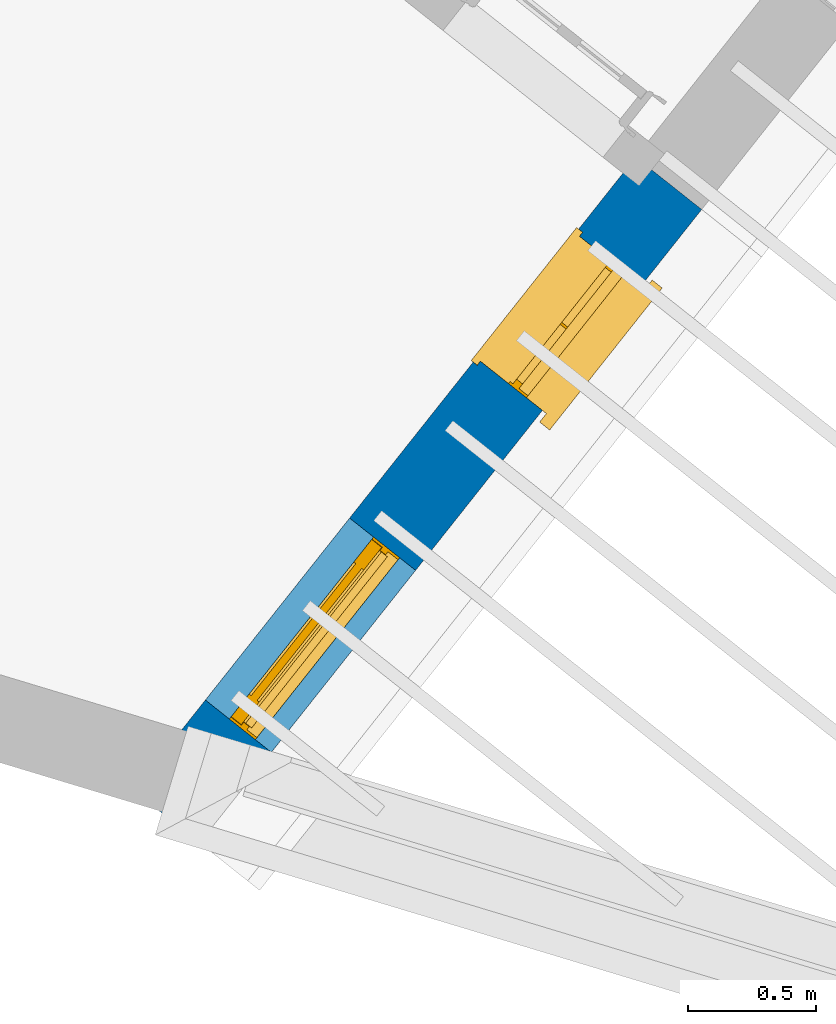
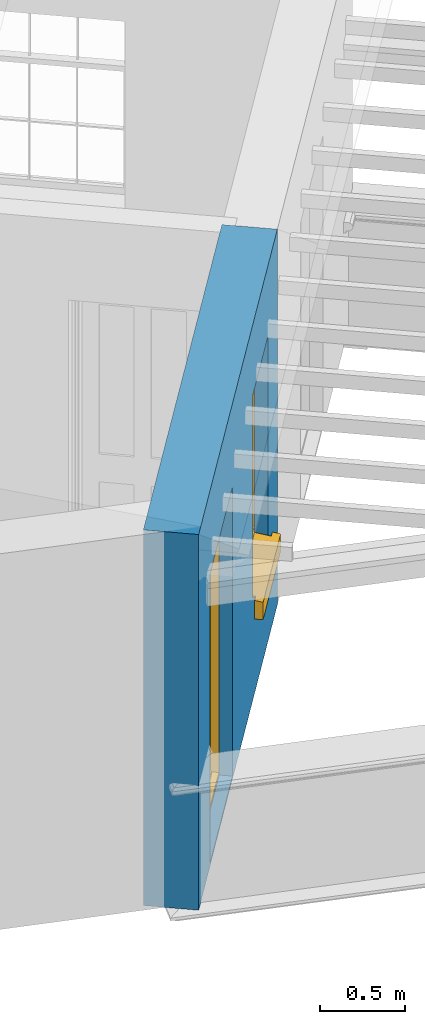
# One storey, part 2 of 5: 1 door, 1 wall, 1 window, 2 openings.
"""IFC4 building model written with IfcOpenShell, lengths in metres."""

from ifc_helpers import new_model, si_unit, frame, origin, origin_with_axes, place, context, subcontext, project, spatial, polyline, outline, extrude, faceted_brep, source, transform, mapped, material, layer, layer_set, layer_usage, type_object, type_shapes, element, fill, save


model = new_model("IFC4")

# Units and contexts
model_context = context("Model", 3, world=origin_with_axes())
body_context = subcontext(model_context, "Body", "Model", "MODEL_VIEW")
ifc_project = project(units=[si_unit("PLANEANGLEUNIT", "RADIAN"), si_unit("MASSUNIT", "GRAM", prefix="KILO"), si_unit("FORCEUNIT", "NEWTON", prefix="KILO"), si_unit("LENGTHUNIT", "METRE"), si_unit("AREAUNIT", "SQUARE_METRE"), si_unit("VOLUMEUNIT", "CUBIC_METRE")], contexts=[model_context, model_context])

# Sites, building, storey
site_1_placement = place(None, origin_with_axes())
site_1 = spatial("IfcSite", under=ifc_project, at=site_1_placement, Name="Tamar")
site_2_placement = place(site_1_placement, origin_with_axes())
site_2 = spatial("IfcSite", under=site_1, at=site_2_placement, Name="Site plot-5", CompositionType="ELEMENT")
building_placement = place(None, origin_with_axes())
building = spatial("IfcBuilding", under=site_2, at=building_placement, Name="Building plot-5", CompositionType="ELEMENT")
storey_placement = place(None, frame((0.0, 0.0, 30.15), z_axis=(0.0, 0.0, 1.0), x_axis=(1.0, 0.0, 0.0)))
storey = spatial("IfcBuildingStorey", under=building, at=storey_placement, Name="plot-5 2", CompositionType="ELEMENT", Elevation=30.15)

# Wall, openings, door, window
ifc_material = material(Name="Masonry")
ifc_layer = layer(ifc_material, 0.33, ventilated=False)
ifc_layer_set = layer_set([ifc_layer], Name="exterior_0.08_0.25")
ifc_layer_usage = layer_usage(ifc_layer_set, "AXIS2", "POSITIVE", -0.25)
wall_type = type_object("IfcWallType", Name="exterior_0.08_0.25", PredefinedType="SOLIDWALL", material=ifc_layer_set)
wall_placement = place(storey_placement, frame((228.34979752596, 271.218720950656, 0.0), z_axis=(0.0, 0.0, 1.0), x_axis=(0.621192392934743, 0.783658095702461, 0.0)))
wall = element("IfcWall", 1, at=wall_placement, inside=storey, type_object=wall_type, material=ifc_layer_usage, Name="exterior", context=body_context, shape_type="SweptSolid", body=[
    extrude(outline(polyline([(-0.250000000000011, 0.080000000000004), (-0.250000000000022, -0.250000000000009), (2.91768280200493, -0.249999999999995), (2.91768280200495, 0.0800000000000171), (-0.250000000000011, 0.080000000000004)])), origin_with_axes(), (0.0, 0.0, 1.0), 2.7),
])
opening_1_placement = place(wall_placement, frame((0.202682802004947, 0.0, 0.0199999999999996)))
opening_1 = element("IfcOpeningElement", 2, at=opening_1_placement, cuts=wall, Name="My Opening", ObjectType="Opening", context=body_context, shape_type="SweptSolid", body=[
    extrude(outline(polyline([(0.0, -0.270000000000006), (0.90999999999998, -0.270000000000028), (0.909999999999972, 1.09999999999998), (-8.27116153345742e-15, 1.1), (0.0, -0.270000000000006)])), origin_with_axes(), (0.0, 0.0, 1.0), 2.08),
])
opening_2_placement = place(wall_placement, frame((1.91268280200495, 0.0, 0.75)))
opening_2 = element("IfcOpeningElement", 3, at=opening_2_placement, cuts=wall, Name="My Opening", ObjectType="Opening", context=body_context, shape_type="SweptSolid", body=[
    extrude(outline(polyline([(0.0, -0.269999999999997), (0.624999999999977, -0.270000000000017), (0.624999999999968, 1.09999999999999), (-7.99360577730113e-15, 1.10000000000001), (0.0, -0.269999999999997)])), origin_with_axes(), (0.0, 0.0, 1.0), 1.445),
])
door_type = type_object("IfcDoorType", Name="door_panelled", OperationType="SINGLE_SWING_LEFT", PredefinedType="NOTDEFINED")
shared_shape_1 = source(origin(), body_context, "Body", "Brep", [
    faceted_brep([(0.545, 0.195, 0.265), (0.745, 0.195, 0.265), (0.745, 0.2, 0.265), (0.545, 0.2, 0.265), (0.745, 0.2, 0.58), (0.545, 0.2, 0.58), (0.545, 0.195, 0.58), (0.515, 0.19, 0.235), (0.775, 0.19, 0.235), (0.745, 0.195, 0.58), (0.515, 0.19, 0.61), (0.515, 0.185, 0.235), (0.775, 0.185, 0.235), (0.775, 0.19, 0.61), (0.515, 0.185, 0.61), (0.785, 0.185, 0.225), (0.505, 0.185, 0.225), (0.775, 0.185, 0.61), (0.505, 0.185, 0.62), (0.785, 0.185, 0.62), (0.505, 0.18, 0.225), (0.785, 0.18, 0.225), (0.505, 0.18, 0.62), (0.785, 0.18, 0.62), (0.883, 0.18, 0.075), (0.898, 0.18, 0.075), (0.405, 0.18, 0.62), (0.405, 0.18, 0.225), (0.027, 0.18, 0.075), (0.785, 0.18, 0.82), (0.125, 0.18, 0.82), (0.405, 0.185, 0.62), (0.405, 0.185, 0.225), (0.898, 0.18, 2.068), (0.027, 0.17, 0.075), (0.883, 0.17, 0.075), (0.125, 0.18, 0.225), (0.012, 0.18, 0.075), (0.785, 0.19, 0.82), (0.125, 0.19, 0.82), (0.125, 0.18, 0.62), (0.125, 0.185, 0.62), (0.395, 0.185, 0.61), (0.395, 0.185, 0.235), (0.125, 0.185, 0.225), (0.785, 0.18, 1.895), (0.027, 0.14, 0.045), (0.883, 0.14, 0.045), (0.558333, 0.19, 0.83), (0.351667, 0.19, 0.83), (0.125, 0.18, 1.895), (0.125, 0.19, 1.895), (0.785, 0.19, 1.895), (0.012, 0.18, 2.068), (0.135, 0.185, 0.61), (0.395, 0.19, 0.61), (0.395, 0.19, 0.235), (0.135, 0.185, 0.235), (0.027, 0.14, 0.027), (0.883, 0.14, 0.027), (0.568333, 0.19, 0.83), (0.558333, 0.22, 0.83), (0.351667, 0.22, 0.83), (0.341667, 0.19, 0.83), (0.135, 0.19, 1.185), (0.135, 0.19, 1.53), (0.775, 0.19, 1.53), (0.775, 0.19, 1.185), (0.135, 0.19, 0.61), (0.365, 0.195, 0.58), (0.365, 0.195, 0.265), (0.135, 0.19, 0.235), (0.568333, 0.19, 1.175), (0.558333, 0.19, 1.175), (0.775, 0.19, 0.83), (0.558333, 0.22, 1.175), (0.785, 0.22, 0.82), (0.125, 0.22, 0.82), (0.351667, 0.22, 1.175), (0.351667, 0.19, 1.175), (0.341667, 0.19, 1.175), (0.135, 0.19, 0.83), (0.135, 0.19, 1.175), (0.135, 0.22, 1.185), (0.135, 0.22, 1.53), (0.135, 0.19, 1.54), (0.351667, 0.19, 1.885), (0.558333, 0.19, 1.885), (0.775, 0.22, 1.53), (0.775, 0.22, 1.185), (0.775, 0.19, 1.175), (0.775, 0.19, 1.54), (0.165, 0.195, 0.58), (0.365, 0.2, 0.58), (0.365, 0.2, 0.265), (0.165, 0.195, 0.265), (0.568333, 0.22, 0.83), (0.568333, 0.22, 1.175), (0.568333, 0.19, 1.185), (0.558333, 0.19, 1.185), (0.775, 0.22, 0.83), (0.785, 0.23, 0.82), (0.125, 0.23, 0.82), (0.341667, 0.22, 0.83), (0.341667, 0.22, 1.175), (0.351667, 0.19, 1.185), (0.341667, 0.19, 1.185), (0.135, 0.22, 0.83), (0.341667, 0.22, 1.185), (0.125, 0.22, 1.895), (0.341667, 0.22, 1.53), (0.341667, 0.19, 1.53), (0.135, 0.19, 1.885), (0.341667, 0.19, 1.54), (0.341667, 0.19, 1.885), (0.558333, 0.22, 1.885), (0.351667, 0.22, 1.885), (0.568333, 0.19, 1.885), (0.785, 0.22, 1.895), (0.568333, 0.22, 1.185), (0.568333, 0.19, 1.53), (0.568333, 0.22, 1.53), (0.568333, 0.19, 1.54), (0.775, 0.19, 1.885), (0.165, 0.2, 0.58), (0.165, 0.2, 0.265), (0.775, 0.22, 1.175), (0.558333, 0.19, 1.53), (0.351667, 0.22, 1.185), (0.558333, 0.22, 1.185), (0.505, 0.23, 0.62), (0.405, 0.23, 0.62), (0.125, 0.23, 1.895), (0.785, 0.23, 1.895), (0.351667, 0.19, 1.53), (0.135, 0.22, 1.175), (0.135, 0.22, 1.54), (0.341667, 0.22, 1.54), (0.135, 0.22, 1.885), (0.351667, 0.19, 1.54), (0.558333, 0.22, 1.54), (0.558333, 0.19, 1.54), (0.351667, 0.22, 1.54), (0.775, 0.22, 1.54), (0.568333, 0.22, 1.54), (0.775, 0.22, 1.885), (0.558333, 0.22, 1.53), (0.405, 0.23, 0.225), (0.505, 0.23, 0.225), (0.125, 0.23, 0.62), (0.785, 0.23, 0.62), (0.012, 0.23, 2.068), (0.898, 0.23, 2.068), (0.351667, 0.22, 1.53), (0.341667, 0.22, 1.885), (0.568333, 0.22, 1.885), (0.405, 0.225, 0.225), (0.405, 0.225, 0.62), (0.505, 0.225, 0.62), (0.505, 0.225, 0.225), (0.898, 0.23, 0.027), (0.012, 0.23, 0.027), (0.125, 0.225, 0.62), (0.785, 0.225, 0.62), (0.395, 0.225, 0.235), (0.395, 0.225, 0.61), (0.125, 0.23, 0.225), (0.125, 0.225, 0.225), (0.515, 0.225, 0.61), (0.515, 0.225, 0.235), (0.785, 0.23, 0.225), (0.785, 0.225, 0.225), (0.135, 0.225, 0.61), (0.775, 0.225, 0.61), (0.135, 0.225, 0.235), (0.395, 0.22, 0.235), (0.395, 0.22, 0.61), (0.515, 0.22, 0.61), (0.515, 0.22, 0.235), (0.775, 0.225, 0.235), (0.135, 0.22, 0.61), (0.775, 0.22, 0.61), (0.135, 0.22, 0.235), (0.365, 0.215, 0.265), (0.365, 0.215, 0.58), (0.545, 0.215, 0.58), (0.545, 0.215, 0.265), (0.775, 0.22, 0.235), (0.165, 0.215, 0.58), (0.745, 0.215, 0.58), (0.165, 0.215, 0.265), (0.365, 0.21, 0.58), (0.365, 0.21, 0.265), (0.545, 0.21, 0.58), (0.545, 0.21, 0.265), (0.745, 0.215, 0.265), (0.165, 0.21, 0.58), (0.745, 0.21, 0.58), (0.165, 0.21, 0.265), (0.745, 0.21, 0.265), (0.885, 0.178, 0.025), (0.025, 0.178, 0.025), (0.025, 0.15, 0.025), (0.885, 0.15, 0.025), (0.9, 0.23, 0.025), (0.01, 0.23, 0.025), (0.9, 0.178, 0.025), (0.91, 0.23, 0.0), (0.0, 0.23, 0.0), (0.01, 0.178, 0.025), (0.9, 0.178, 2.07), (0.9, 0.23, 2.07), (0.885, 0.178, 2.055), (0.91, 0.23, 2.08), (0.01, 0.23, 2.07), (0.0, 0.23, 2.08), (0.01, 0.178, 2.07), (0.025, 0.178, 2.055), (0.0, 0.1, 2.08), (0.91, 0.1, 2.08), (0.01, 0.1, 2.07), (0.9, 0.1, 2.07), (0.01, 0.15, 2.07), (0.9, 0.15, 2.07), (0.0, 0.1, 0.0), (0.91, 0.1, 0.0), (0.01, 0.1, 0.025), (0.9, 0.1, 0.025), (0.01, 0.15, 0.025), (0.025, 0.15, 2.055), (0.9, 0.15, 0.025), (0.885, 0.15, 2.055), (0.898, 0.18, 0.027), (0.012, 0.18, 0.027), (0.883, 0.18, 0.027), (0.027, 0.18, 0.027)], [[[0, 1, 2, 3]], [[2, 4, 5, 3]], [[0, 3, 5, 6]], [[1, 0, 7, 8]], [[9, 4, 2, 1]], [[9, 6, 5, 4]], [[0, 6, 10, 7]], [[8, 7, 11, 12]], [[8, 13, 9, 1]], [[13, 10, 6, 9]], [[7, 10, 14, 11]], [[15, 12, 11, 16]], [[12, 17, 13, 8]], [[17, 14, 10, 13]], [[18, 16, 11, 14]], [[15, 19, 17, 12]], [[15, 16, 20, 21]], [[14, 17, 19, 18]], [[16, 18, 22, 20]], [[21, 23, 19, 15]], [[24, 25, 21, 20]], [[23, 22, 18, 19]], [[20, 22, 26, 27]], [[23, 21, 25]], [[28, 24, 20, 27]], [[22, 23, 29]], [[29, 30, 26, 22]], [[27, 26, 31, 32]], [[23, 25, 33, 29]], [[34, 35, 24, 28]], [[28, 27, 36, 37]], [[38, 39, 30, 29]], [[26, 30, 40]], [[26, 40, 41, 31]], [[42, 43, 32, 31]], [[32, 44, 36, 27]], [[33, 45, 29]], [[46, 47, 35, 34]], [[36, 40, 37]], [[39, 38, 48, 49]], [[50, 30, 39, 51]], [[29, 45, 52, 38]], [[53, 37, 40, 30]], [[44, 41, 40, 36]], [[31, 41, 54, 42]], [[43, 42, 55, 56]], [[57, 44, 32, 43]], [[50, 45, 33, 53]], [[47, 46, 58, 59]], [[60, 48, 38]], [[49, 48, 61, 62]], [[49, 63, 39]], [[50, 53, 30]], [[51, 39, 64, 65]], [[45, 50, 51, 52]], [[66, 67, 38, 52]], [[57, 54, 41, 44]], [[42, 54, 68, 55]], [[56, 55, 69, 70]], [[56, 71, 57, 43]], [[60, 72, 73, 48]], [[60, 38, 74]], [[48, 73, 75, 61]], [[76, 77, 62, 61]], [[62, 78, 79, 49]], [[49, 79, 80, 63]], [[63, 81, 39]], [[82, 64, 39]], [[65, 64, 83, 84]], [[85, 51, 65]], [[52, 51, 86, 87]], [[88, 89, 67, 66]], [[90, 38, 67]], [[91, 66, 52]], [[71, 68, 54, 57]], [[55, 68, 92, 69]], [[69, 93, 94, 70]], [[70, 95, 71, 56]], [[96, 97, 72, 60]], [[73, 72, 98, 99]], [[74, 38, 90]], [[100, 96, 60, 74]], [[75, 73, 79, 78]], [[61, 75, 97, 96]], [[101, 102, 77, 76]], [[77, 103, 62]], [[96, 76, 61]], [[103, 104, 78, 62]], [[80, 79, 105, 106]], [[63, 80, 104, 103]], [[81, 63, 103, 107]], [[81, 82, 39]], [[106, 64, 82, 80]], [[106, 108, 83, 64]], [[84, 83, 77, 109]], [[110, 111, 65, 84]], [[112, 51, 85]], [[113, 85, 65, 111]], [[114, 86, 51]], [[115, 87, 86, 116]], [[117, 52, 87]], [[118, 76, 89, 88]], [[119, 98, 67, 89]], [[120, 121, 88, 66]], [[67, 98, 72, 90]], [[91, 122, 120, 66]], [[91, 52, 123]], [[95, 92, 68, 71]], [[69, 92, 124, 93]], [[94, 93, 124, 125]], [[94, 125, 95, 70]], [[72, 97, 126, 90]], [[127, 99, 98, 120]], [[99, 105, 79, 73]], [[74, 90, 126, 100]], [[96, 100, 76]], [[128, 129, 75, 78]], [[97, 75, 129, 119]], [[130, 131, 102, 101]], [[109, 77, 102, 132]], [[133, 101, 76, 118]], [[77, 107, 103]], [[78, 104, 108, 128]], [[111, 106, 105, 134]], [[104, 80, 82, 135]], [[107, 135, 82, 81]], [[110, 108, 106, 111]], [[104, 135, 83, 108]], [[83, 135, 77]], [[136, 84, 109]], [[110, 84, 136, 137]], [[114, 51, 112]], [[85, 136, 138, 112]], [[113, 137, 136, 85]], [[111, 134, 139, 113]], [[86, 114, 113, 139]], [[140, 141, 87, 115]], [[139, 142, 116, 86]], [[109, 118, 115, 116]], [[117, 123, 52]], [[117, 87, 141, 122]], [[126, 89, 76]], [[143, 118, 88]], [[120, 98, 119, 121]], [[119, 89, 126, 97]], [[144, 143, 88, 121]], [[144, 122, 91, 143]], [[127, 120, 122, 141]], [[143, 91, 123, 145]], [[124, 92, 95, 125]], [[146, 129, 99, 127]], [[99, 129, 128, 105]], [[100, 126, 76]], [[121, 119, 129, 146]], [[147, 131, 130, 148]], [[131, 149, 102]], [[130, 101, 150]], [[102, 151, 132]], [[118, 109, 132, 133]], [[101, 133, 152]], [[107, 77, 135]], [[153, 128, 108, 110]], [[134, 105, 128, 153]], [[109, 138, 136]], [[153, 110, 137, 142]], [[154, 114, 112, 138]], [[137, 113, 114, 154]], [[141, 139, 134, 127]], [[141, 140, 142, 139]], [[144, 140, 115, 155]], [[142, 137, 154, 116]], [[155, 115, 118]], [[116, 154, 109]], [[117, 155, 145, 123]], [[122, 144, 155, 117]], [[143, 145, 118]], [[121, 146, 140, 144]], [[146, 127, 134, 153]], [[156, 157, 131, 147]], [[148, 130, 158, 159]], [[148, 160, 161, 147]], [[157, 162, 149, 131]], [[161, 151, 102, 149]], [[101, 152, 160, 150]], [[163, 158, 130, 150]], [[151, 152, 133, 132]], [[154, 138, 109]], [[142, 140, 146, 153]], [[145, 155, 118]], [[157, 156, 164, 165]], [[147, 166, 167, 156]], [[168, 169, 159, 158]], [[170, 148, 159, 171]], [[148, 170, 160]], [[166, 147, 161]], [[172, 162, 157, 165]], [[166, 149, 162, 167]], [[166, 161, 149]], [[150, 160, 170]], [[163, 173, 168, 158]], [[171, 163, 150, 170]], [[174, 164, 156, 167]], [[175, 176, 165, 164]], [[169, 168, 177, 178]], [[171, 159, 169, 179]], [[167, 162, 172, 174]], [[176, 180, 172, 165]], [[179, 173, 163, 171]], [[181, 177, 168, 173]], [[164, 174, 182, 175]], [[183, 184, 176, 175]], [[178, 177, 185, 186]], [[179, 169, 178, 187]], [[174, 172, 180, 182]], [[184, 188, 180, 176]], [[187, 181, 173, 179]], [[189, 185, 177, 181]], [[175, 182, 190, 183]], [[191, 184, 183, 192]], [[185, 193, 194, 186]], [[187, 178, 186, 195]], [[182, 180, 188, 190]], [[191, 196, 188, 184]], [[195, 189, 181, 187]], [[197, 193, 185, 189]], [[183, 190, 198, 192]], [[198, 196, 191, 192]], [[194, 193, 197, 199]], [[195, 186, 194, 199]], [[188, 196, 198, 190]], [[197, 189, 195, 199]], [[200, 201, 202, 203]], [[201, 200, 204, 205]], [[206, 204, 200]], [[204, 207, 208, 205]], [[209, 201, 205]], [[210, 211, 204, 206]], [[206, 200, 212, 210]], [[211, 213, 207, 204]], [[214, 205, 208, 215]], [[216, 217, 201, 209]], [[205, 214, 216, 209]], [[216, 214, 211, 210]], [[210, 212, 217, 216]], [[214, 215, 213, 211]], [[218, 219, 213, 215]], [[219, 218, 220, 221]], [[221, 220, 222, 223]], [[215, 208, 224, 218]], [[225, 224, 208, 207]], [[224, 226, 220, 218]], [[224, 225, 227, 226]], [[219, 225, 207, 213]], [[228, 222, 220, 226]], [[219, 221, 227, 225]], [[226, 227, 203, 202]], [[202, 229, 222, 228]], [[228, 226, 202]], [[227, 221, 223, 230]], [[230, 203, 227]], [[217, 229, 202, 201]], [[231, 223, 222, 229]], [[230, 223, 231, 203]], [[231, 229, 217, 212]], [[212, 200, 203, 231]], [[33, 152, 151, 53]], [[25, 160, 152, 33]], [[161, 37, 53, 151]], [[232, 160, 25]], [[161, 233, 37]], [[160, 232, 234]], [[24, 234, 232, 25]], [[233, 161, 235]], [[37, 233, 235, 28]], [[161, 160, 234, 235]], [[35, 47, 234, 24]], [[28, 235, 46, 34]], [[58, 235, 234, 59]], [[59, 234, 47]], [[58, 46, 235]]]),
])
type_shapes(door_type, [shared_shape_1])
door_placement = place(storey_placement, frame((228.687290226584, 271.209833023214, 0.0199999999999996), z_axis=(0.0, 0.0, 1.0), x_axis=(0.565285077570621, 0.71312886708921, 0.0)))
door = element("IfcDoor", 4, at=door_placement, inside=storey, type_object=door_type, Name="bedroom outside door", OverallHeight=2.08, OverallWidth=0.91, context=body_context, shape_type="MappedRepresentation", body=[
    mapped(shared_shape_1, transform((0.0, 0.0, 0.0), scale=1.0)),
])
fill(opening_1, door)
window_type = type_object("IfcWindowType", Name="sash_narrow_shorter", PartitioningType="DOUBLE_PANEL_HORIZONTAL", PredefinedType="NOTDEFINED")
shared_shape_2 = source(origin(), body_context, "Body", "Brep", [
    faceted_brep([(0.591875, 0.145, 0.999097), (0.591875, 0.145, 1.411875), (0.615, 0.145, 1.435), (0.033125, 0.145, 1.411875), (0.033125, 0.145, 0.999097), (0.01, 0.145, 1.435), (0.033125, 0.115, 1.411875), (0.01, 0.115, 1.435), (0.033125, 0.115, 0.999097), (0.591875, 0.115, 1.411875), (0.591875, 0.115, 0.999097), (0.615, 0.115, 1.435), (0.033125, 0.145, 0.960972), (0.01, 0.145, 0.960972), (0.033125, 0.145, 0.548195), (0.591875, 0.145, 0.960972), (0.591875, 0.145, 0.548195), (0.615, 0.145, 0.960972), (0.591875, 0.145, 0.538195), (0.591875, 0.145, 0.125417), (0.615, 0.145, 0.077167), (0.033125, 0.145, 0.125417), (0.033125, 0.145, 0.538195), (0.01, 0.145, 0.077167), (0.615, 0.115, 0.960972), (0.01, 0.115, 0.960972), (-0.0425, 0.0, 0.01), (-0.0425, -0.05, 0.001667), (0.0, 0.0, 0.01), (0.6675, 0.0, 0.01), (0.625, 0.0, 0.01), (0.6675, -0.05, 0.001667), (-0.02, 0.33, 0.077167), (0.0, 0.33, 0.077167), (-0.02, 0.36, 0.077167), (0.0, 0.19, 0.077167), (0.01, 0.19, 0.077167), (0.625, 0.19, 0.077167), (0.625, 0.33, 0.077167), (0.615, 0.19, 0.077167), (0.645, 0.33, 0.077167), (0.645, 0.36, 0.077167), (0.01, 0.145, 0.999097), (0.01, 0.175, 0.999097), (0.615, 0.145, 0.999097), (0.615, 0.175, 0.999097), (0.591875, 0.175, 0.125417), (0.591875, 0.175, 0.538195), (0.615, 0.175, 0.077167), (0.591875, 0.175, 0.548195), (0.591875, 0.175, 0.960972), (0.033125, 0.175, 0.125417), (0.01, 0.175, 0.077167), (0.033125, 0.175, 0.538195), (0.033125, 0.175, 0.960972), (0.033125, 0.175, 0.548195), (-0.02, 0.33, 0.052167), (-0.02, 0.36, 0.052167), (0.645, 0.36, 0.052167), (0.645, 0.33, 0.052167), (0.625, 0.33, 0.052167), (0.0, 0.33, 0.052167), (0.625, 0.1, 0.026667), (0.0, 0.1, 0.026667), (-0.0425, -0.05, -0.123333), (0.6675, -0.05, -0.123333), (-0.0425, 0.0, -0.123333), (0.6675, 0.0, -0.123333), (0.01, 0.19, 1.435), (0.615, 0.19, 1.435), (0.0, 0.19, 1.445), (0.625, 0.19, 1.445), (0.01, 0.1, 0.077167), (0.615, 0.1, 0.077167), (0.3175, 0.175, 0.548195), (0.3175, 0.145, 0.548195), (0.3175, 0.175, 0.538195), (0.3175, 0.175, 0.125417), (0.3075, 0.175, 0.125417), (0.3075, 0.175, 0.538195), (0.3075, 0.175, 0.548195), (0.3175, 0.175, 0.960972), (0.3075, 0.175, 0.960972), (0.3075, 0.145, 0.538195), (0.3075, 0.145, 0.125417), (0.3175, 0.145, 0.125417), (0.3175, 0.145, 0.538195), (0.3075, 0.145, 0.548195), (0.3075, 0.145, 0.960972), (0.3175, 0.145, 0.960972), (0.3175, 0.115, 1.411875), (0.3075, 0.115, 1.411875), (0.3075, 0.115, 0.999097), (0.3175, 0.115, 0.999097), (0.3175, 0.145, 0.999097), (0.3075, 0.145, 0.999097), (0.3075, 0.145, 1.411875), (0.3175, 0.145, 1.411875), (0.625, 0.1, 1.445), (0.615, 0.1, 1.435), (0.01, 0.1, 1.435), (0.0, 0.1, 1.445), (0.625, 0.0, 0.0), (0.0, 0.0, 0.0), (0.625, 0.33, 0.0), (0.0, 0.33, 0.0)], [[[0, 1, 2]], [[3, 4, 5]], [[6, 7, 8]], [[9, 10, 11]], [[12, 13, 14]], [[15, 16, 17]], [[18, 19, 20]], [[21, 22, 23]], [[24, 15, 17]], [[13, 12, 25]], [[26, 27, 28]], [[29, 30, 31]], [[32, 33, 34]], [[35, 36, 33]], [[37, 38, 39]], [[40, 41, 38]], [[42, 4, 43]], [[44, 45, 0]], [[46, 47, 48]], [[49, 50, 45]], [[51, 52, 53]], [[54, 55, 43]], [[38, 33, 36, 39]], [[41, 34, 33, 38]], [[56, 32, 34, 57]], [[57, 34, 41, 58]], [[58, 41, 40, 59]], [[57, 58, 60, 61]], [[52, 48, 39, 36]], [[62, 63, 28, 30]], [[27, 31, 30, 28]], [[27, 64, 65, 31]], [[66, 67, 65, 64]], [[2, 5, 68, 69]], [[68, 70, 71, 69]], [[20, 23, 72, 73]], [[73, 72, 63, 62]], [[16, 49, 74, 75]], [[76, 77, 78, 79]], [[80, 79, 53, 55]], [[81, 74, 80, 82]], [[76, 74, 49, 47]], [[83, 79, 78, 84]], [[22, 53, 79, 83]], [[85, 77, 76, 86]], [[87, 80, 55, 14]], [[88, 82, 80, 87]], [[75, 74, 81, 89]], [[86, 76, 47, 18]], [[86, 18, 16, 75]], [[86, 83, 84, 85]], [[87, 14, 22, 83]], [[89, 88, 87, 75]], [[90, 91, 92, 93]], [[94, 95, 96, 97]], [[91, 96, 95, 92]], [[93, 94, 97, 90]], [[74, 76, 79, 80]], [[75, 87, 83, 86]], [[84, 78, 51, 21]], [[6, 3, 96, 91]], [[90, 97, 1, 9]], [[19, 46, 77, 85]], [[26, 66, 64, 27]], [[29, 31, 65, 67]], [[25, 24, 93, 92]], [[11, 7, 91, 90]], [[77, 48, 52, 78]], [[43, 45, 81, 82]], [[45, 43, 95, 94]], [[5, 2, 97, 96]], [[24, 25, 88, 89]], [[42, 5, 4]], [[2, 44, 0]], [[49, 45, 48, 47]], [[52, 43, 55, 53]], [[14, 13, 23, 22]], [[20, 17, 16, 18]], [[24, 11, 10]], [[25, 8, 7]], [[8, 4, 3, 6]], [[9, 1, 0, 10]], [[15, 50, 49, 16]], [[18, 47, 46, 19]], [[21, 51, 53, 22]], [[14, 55, 54, 12]], [[44, 2, 69, 45]], [[68, 5, 42, 43]], [[36, 35, 70, 68]], [[39, 69, 71, 37]], [[62, 98, 99, 73]], [[63, 72, 100, 101]], [[8, 92, 95, 4]], [[93, 10, 0, 94]], [[82, 88, 12, 54]], [[17, 20, 73, 24]], [[72, 23, 13, 25]], [[52, 36, 68, 43]], [[69, 39, 48, 45]], [[11, 24, 73, 99]], [[7, 100, 72, 25]], [[84, 21, 23]], [[20, 19, 85]], [[20, 85, 84, 23]], [[24, 10, 93]], [[92, 8, 25]], [[90, 9, 11]], [[7, 6, 91]], [[96, 3, 5]], [[2, 1, 97]], [[11, 99, 100, 7]], [[98, 101, 100, 99]], [[82, 54, 43]], [[50, 81, 45]], [[15, 89, 81, 50]], [[77, 46, 48]], [[52, 51, 78]], [[89, 15, 24]], [[25, 12, 88]], [[43, 4, 95]], [[94, 0, 45]], [[71, 70, 101, 98]], [[70, 35, 63, 101]], [[98, 62, 37, 71]], [[102, 67, 66, 103]], [[60, 58, 59]], [[38, 60, 59, 40]], [[61, 56, 57]], [[32, 56, 61, 33]], [[61, 60, 104, 105]], [[62, 60, 38, 37]], [[102, 104, 60, 62]], [[33, 61, 63, 35]], [[61, 105, 103, 63]], [[104, 102, 103, 105]], [[28, 103, 66, 26]], [[63, 103, 28]], [[29, 67, 102, 30]], [[30, 102, 62]]]),
])
type_shapes(window_type, [shared_shape_2])
window_placement = place(storey_placement, frame((229.749529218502, 272.549888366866, 0.75), z_axis=(0.0, 0.0, 1.0), x_axis=(0.388245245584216, 0.489786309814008, 0.0)))
window = element("IfcWindow", 5, at=window_placement, inside=storey, type_object=window_type, Name="bedroom outside window", OverallHeight=1.445, OverallWidth=0.625, context=body_context, shape_type="MappedRepresentation", body=[
    mapped(shared_shape_2, transform((0.0, 0.0, 0.0), scale=1.0)),
])
fill(opening_2, window)

save(model, "model.ifc")
